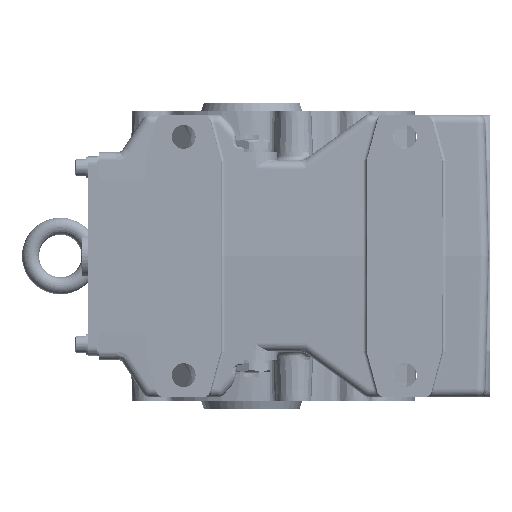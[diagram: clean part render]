
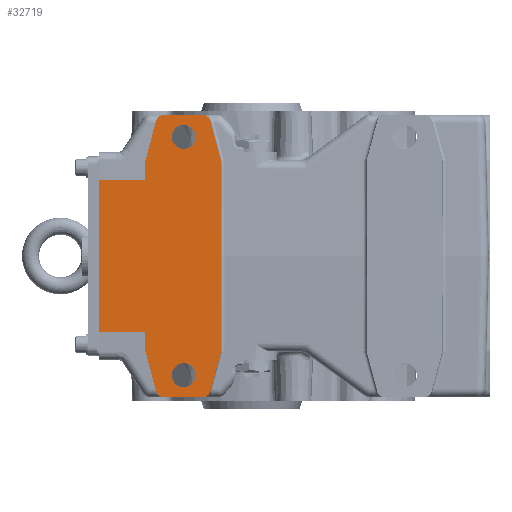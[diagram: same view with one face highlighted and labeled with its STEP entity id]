
A CAD part, left-side view. The second image highlights one B-rep face of the part: STEP entity #32719.
In plain terms, the highlighted planar face has unit normal (-1, 0, 0).
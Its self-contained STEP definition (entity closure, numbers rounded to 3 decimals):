
#20003=CARTESIAN_POINT('',(-90.0,90.0,-44.812));
#20004=VERTEX_POINT('',#20003);
#20011=CARTESIAN_POINT('',(-90.0,90.0,44.812));
#20012=VERTEX_POINT('',#20011);
#20013=CARTESIAN_POINT('',(-90.,90.0,44.812));
#20014=DIRECTION('',(0.0,0.0,-1.0));
#20015=VECTOR('',#20014,89.623);
#20016=LINE('',#20013,#20015);
#20017=EDGE_CURVE('',#20012,#20004,#20016,.T.);
#22269=CARTESIAN_POINT('',(-90.,40.0,-63.0));
#22270=VERTEX_POINT('',#22269);
#22271=CARTESIAN_POINT('',(-90.,40.0,-70.0));
#22272=DIRECTION('',(1.0,0.0,0.0));
#22273=DIRECTION('',(0.0,0.0,1.0));
#22274=AXIS2_PLACEMENT_3D('',#22271,#22272,#22273);
#22275=CIRCLE('',#22274,7.);
#22276=EDGE_CURVE('',#22270,#22270,#22275,.T.);
#22297=CARTESIAN_POINT('',(-90.,40.0,77.0));
#22298=VERTEX_POINT('',#22297);
#22299=CARTESIAN_POINT('',(-90.,40.0,70.0));
#22300=DIRECTION('',(1.0,0.0,0.0));
#22301=DIRECTION('',(0.0,0.0,1.0));
#22302=AXIS2_PLACEMENT_3D('',#22299,#22300,#22301);
#22303=CIRCLE('',#22302,7.);
#22304=EDGE_CURVE('',#22298,#22298,#22303,.T.);
#32521=CARTESIAN_POINT('',(-90.,-15.242,0.735));
#32522=DIRECTION('',(1.0,0.0,0.0));
#32523=DIRECTION('',(0.0,0.0,-1.0));
#32524=AXIS2_PLACEMENT_3D('',#32521,#32522,#32523);
#32525=PLANE('',#32524);
#32526=ORIENTED_EDGE('',*,*,#20017,.T.);
#32527=CARTESIAN_POINT('',(-90.,62.5,-44.812));
#32528=VERTEX_POINT('',#32527);
#32529=CARTESIAN_POINT('',(-90.0,62.5,-44.812));
#32530=DIRECTION('',(0.0,1.0,0.0));
#32531=VECTOR('',#32530,27.5);
#32532=LINE('',#32529,#32531);
#32533=EDGE_CURVE('',#32528,#20004,#32532,.T.);
#32534=ORIENTED_EDGE('',*,*,#32533,.F.);
#32535=CARTESIAN_POINT('',(-90.,62.5,-55.34));
#32536=VERTEX_POINT('',#32535);
#32537=CARTESIAN_POINT('',(-90.,62.5,-55.34));
#32538=DIRECTION('',(0.0,0.0,1.0));
#32539=VECTOR('',#32538,10.529);
#32540=LINE('',#32537,#32539);
#32541=EDGE_CURVE('',#32536,#32528,#32540,.T.);
#32542=ORIENTED_EDGE('',*,*,#32541,.F.);
#32543=CARTESIAN_POINT('',(-90.,62.329,-56.637));
#32544=VERTEX_POINT('',#32543);
#32545=CARTESIAN_POINT('',(-90.,57.5,-55.34));
#32546=DIRECTION('',(1.0,0.0,0.0));
#32547=DIRECTION('',(0.0,0.991,-0.131));
#32548=AXIS2_PLACEMENT_3D('',#32545,#32546,#32547);
#32549=CIRCLE('',#32548,5.);
#32550=EDGE_CURVE('',#32544,#32536,#32549,.T.);
#32551=ORIENTED_EDGE('',*,*,#32550,.F.);
#32552=CARTESIAN_POINT('',(-90.,56.244,-79.297));
#32553=VERTEX_POINT('',#32552);
#32554=CARTESIAN_POINT('',(-90.,56.244,-79.297));
#32555=DIRECTION('',(0.0,0.259,0.966));
#32556=VECTOR('',#32555,23.462);
#32557=LINE('',#32554,#32556);
#32558=EDGE_CURVE('',#32553,#32544,#32557,.T.);
#32559=ORIENTED_EDGE('',*,*,#32558,.F.);
#32560=CARTESIAN_POINT('',(-90.,51.415,-83.));
#32561=VERTEX_POINT('',#32560);
#32562=CARTESIAN_POINT('',(-90.,51.415,-78.));
#32563=DIRECTION('',(1.0,0.0,0.0));
#32564=DIRECTION('',(0.0,0.609,-0.794));
#32565=AXIS2_PLACEMENT_3D('',#32562,#32563,#32564);
#32566=CIRCLE('',#32565,5.);
#32567=EDGE_CURVE('',#32561,#32553,#32566,.T.);
#32568=ORIENTED_EDGE('',*,*,#32567,.F.);
#32569=CARTESIAN_POINT('',(-90.,29.085,-83.));
#32570=VERTEX_POINT('',#32569);
#32571=CARTESIAN_POINT('',(-90.,29.085,-83.));
#32572=DIRECTION('',(0.0,1.0,0.0));
#32573=VECTOR('',#32572,22.331);
#32574=LINE('',#32571,#32573);
#32575=EDGE_CURVE('',#32570,#32561,#32574,.T.);
#32576=ORIENTED_EDGE('',*,*,#32575,.F.);
#32577=CARTESIAN_POINT('',(-90.,24.256,-79.297));
#32578=VERTEX_POINT('',#32577);
#32579=CARTESIAN_POINT('',(-90.,29.085,-78.));
#32580=DIRECTION('',(1.0,0.0,0.0));
#32581=DIRECTION('',(0.0,-0.609,-0.794));
#32582=AXIS2_PLACEMENT_3D('',#32579,#32580,#32581);
#32583=CIRCLE('',#32582,5.0);
#32584=EDGE_CURVE('',#32578,#32570,#32583,.T.);
#32585=ORIENTED_EDGE('',*,*,#32584,.F.);
#32586=CARTESIAN_POINT('',(-90.,18.171,-56.637));
#32587=VERTEX_POINT('',#32586);
#32588=CARTESIAN_POINT('',(-90.0,18.171,-56.637));
#32589=DIRECTION('',(0.0,0.259,-0.966));
#32590=VECTOR('',#32589,23.462);
#32591=LINE('',#32588,#32590);
#32592=EDGE_CURVE('',#32587,#32578,#32591,.T.);
#32593=ORIENTED_EDGE('',*,*,#32592,.F.);
#32594=CARTESIAN_POINT('',(-90.,18.,-55.34));
#32595=VERTEX_POINT('',#32594);
#32596=CARTESIAN_POINT('',(-90.,23.,-55.34));
#32597=DIRECTION('',(1.0,0.0,0.0));
#32598=DIRECTION('',(0.0,-0.991,-0.131));
#32599=AXIS2_PLACEMENT_3D('',#32596,#32597,#32598);
#32600=CIRCLE('',#32599,5.0);
#32601=EDGE_CURVE('',#32595,#32587,#32600,.T.);
#32602=ORIENTED_EDGE('',*,*,#32601,.F.);
#32603=CARTESIAN_POINT('',(-90.,18.,-17.838));
#32604=VERTEX_POINT('',#32603);
#32605=CARTESIAN_POINT('',(-90.0,18.,-17.838));
#32606=DIRECTION('',(0.0,0.0,-1.0));
#32607=VECTOR('',#32606,37.503);
#32608=LINE('',#32605,#32607);
#32609=EDGE_CURVE('',#32604,#32595,#32608,.T.);
#32610=ORIENTED_EDGE('',*,*,#32609,.F.);
#32611=CARTESIAN_POINT('',(-90.,17.945,0.));
#32612=VERTEX_POINT('',#32611);
#32613=CARTESIAN_POINT('',(-90.,16.,-17.838));
#32614=DIRECTION('',(-1.0,0.0,0.0));
#32615=DIRECTION('',(0.0,0.0,1.0));
#32616=AXIS2_PLACEMENT_3D('',#32613,#32614,#32615);
#32617=ELLIPSE('',#32616,76.403,2.0);
#32618=EDGE_CURVE('',#32612,#32604,#32617,.T.);
#32619=ORIENTED_EDGE('',*,*,#32618,.F.);
#32620=CARTESIAN_POINT('',(-90.,18.,17.838));
#32621=VERTEX_POINT('',#32620);
#32622=CARTESIAN_POINT('',(-90.,16.,17.838));
#32623=DIRECTION('',(-1.0,0.0,0.0));
#32624=DIRECTION('',(0.0,0.0,-1.0));
#32625=AXIS2_PLACEMENT_3D('',#32622,#32623,#32624);
#32626=ELLIPSE('',#32625,76.403,2.0);
#32627=EDGE_CURVE('',#32621,#32612,#32626,.T.);
#32628=ORIENTED_EDGE('',*,*,#32627,.F.);
#32629=CARTESIAN_POINT('',(-90.,18.,55.34));
#32630=VERTEX_POINT('',#32629);
#32631=CARTESIAN_POINT('',(-90.0,18.,55.34));
#32632=DIRECTION('',(0.0,0.0,-1.0));
#32633=VECTOR('',#32632,37.503);
#32634=LINE('',#32631,#32633);
#32635=EDGE_CURVE('',#32630,#32621,#32634,.T.);
#32636=ORIENTED_EDGE('',*,*,#32635,.F.);
#32637=CARTESIAN_POINT('',(-90.,18.171,56.637));
#32638=VERTEX_POINT('',#32637);
#32639=CARTESIAN_POINT('',(-90.,23.,55.34));
#32640=DIRECTION('',(1.0,0.0,0.0));
#32641=DIRECTION('',(0.0,-0.991,0.131));
#32642=AXIS2_PLACEMENT_3D('',#32639,#32640,#32641);
#32643=CIRCLE('',#32642,5.0);
#32644=EDGE_CURVE('',#32638,#32630,#32643,.T.);
#32645=ORIENTED_EDGE('',*,*,#32644,.F.);
#32646=CARTESIAN_POINT('',(-90.,24.256,79.297));
#32647=VERTEX_POINT('',#32646);
#32648=CARTESIAN_POINT('',(-90.0,24.256,79.297));
#32649=DIRECTION('',(0.0,-0.259,-0.966));
#32650=VECTOR('',#32649,23.462);
#32651=LINE('',#32648,#32650);
#32652=EDGE_CURVE('',#32647,#32638,#32651,.T.);
#32653=ORIENTED_EDGE('',*,*,#32652,.F.);
#32654=CARTESIAN_POINT('',(-90.,29.085,83.));
#32655=VERTEX_POINT('',#32654);
#32656=CARTESIAN_POINT('',(-90.,29.085,78.));
#32657=DIRECTION('',(1.0,0.0,0.0));
#32658=DIRECTION('',(0.0,-0.609,0.794));
#32659=AXIS2_PLACEMENT_3D('',#32656,#32657,#32658);
#32660=CIRCLE('',#32659,5.0);
#32661=EDGE_CURVE('',#32655,#32647,#32660,.T.);
#32662=ORIENTED_EDGE('',*,*,#32661,.F.);
#32663=CARTESIAN_POINT('',(-90.,51.415,83.));
#32664=VERTEX_POINT('',#32663);
#32665=CARTESIAN_POINT('',(-90.,51.415,83.));
#32666=DIRECTION('',(0.0,-1.0,0.0));
#32667=VECTOR('',#32666,22.331);
#32668=LINE('',#32665,#32667);
#32669=EDGE_CURVE('',#32664,#32655,#32668,.T.);
#32670=ORIENTED_EDGE('',*,*,#32669,.F.);
#32671=CARTESIAN_POINT('',(-90.,56.244,79.297));
#32672=VERTEX_POINT('',#32671);
#32673=CARTESIAN_POINT('',(-90.,51.415,78.));
#32674=DIRECTION('',(1.0,0.0,0.0));
#32675=DIRECTION('',(0.0,0.609,0.794));
#32676=AXIS2_PLACEMENT_3D('',#32673,#32674,#32675);
#32677=CIRCLE('',#32676,5.);
#32678=EDGE_CURVE('',#32672,#32664,#32677,.T.);
#32679=ORIENTED_EDGE('',*,*,#32678,.F.);
#32680=CARTESIAN_POINT('',(-90.,62.329,56.637));
#32681=VERTEX_POINT('',#32680);
#32682=CARTESIAN_POINT('',(-90.,62.329,56.637));
#32683=DIRECTION('',(0.0,-0.259,0.966));
#32684=VECTOR('',#32683,23.462);
#32685=LINE('',#32682,#32684);
#32686=EDGE_CURVE('',#32681,#32672,#32685,.T.);
#32687=ORIENTED_EDGE('',*,*,#32686,.F.);
#32688=CARTESIAN_POINT('',(-90.,62.5,55.34));
#32689=VERTEX_POINT('',#32688);
#32690=CARTESIAN_POINT('',(-90.,57.5,55.34));
#32691=DIRECTION('',(1.0,0.0,0.0));
#32692=DIRECTION('',(0.0,0.991,0.131));
#32693=AXIS2_PLACEMENT_3D('',#32690,#32691,#32692);
#32694=CIRCLE('',#32693,5.0);
#32695=EDGE_CURVE('',#32689,#32681,#32694,.T.);
#32696=ORIENTED_EDGE('',*,*,#32695,.F.);
#32697=CARTESIAN_POINT('',(-90.,62.5,44.812));
#32698=VERTEX_POINT('',#32697);
#32699=CARTESIAN_POINT('',(-90.,62.5,44.812));
#32700=DIRECTION('',(0.0,0.0,1.0));
#32701=VECTOR('',#32700,10.529);
#32702=LINE('',#32699,#32701);
#32703=EDGE_CURVE('',#32698,#32689,#32702,.T.);
#32704=ORIENTED_EDGE('',*,*,#32703,.F.);
#32705=CARTESIAN_POINT('',(-90.0,90.0,44.812));
#32706=DIRECTION('',(0.0,-1.0,0.0));
#32707=VECTOR('',#32706,27.5);
#32708=LINE('',#32705,#32707);
#32709=EDGE_CURVE('',#20012,#32698,#32708,.T.);
#32710=ORIENTED_EDGE('',*,*,#32709,.F.);
#32711=EDGE_LOOP('',(#32526,#32534,#32542,#32551,#32559,#32568,#32576,#32585,#32593,#32602,#32610,#32619,#32628,#32636,#32645,#32653,#32662,#32670,#32679,#32687,#32696,#32704,#32710));
#32712=FACE_OUTER_BOUND('',#32711,.T.);
#32713=ORIENTED_EDGE('',*,*,#22276,.T.);
#32714=EDGE_LOOP('',(#32713));
#32715=FACE_BOUND('',#32714,.T.);
#32716=ORIENTED_EDGE('',*,*,#22304,.T.);
#32717=EDGE_LOOP('',(#32716));
#32718=FACE_BOUND('',#32717,.T.);
#32719=ADVANCED_FACE('',(#32712,#32715,#32718),#32525,.F.);
